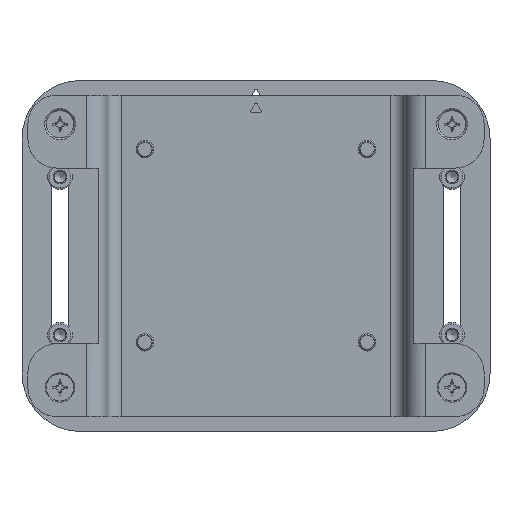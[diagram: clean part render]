
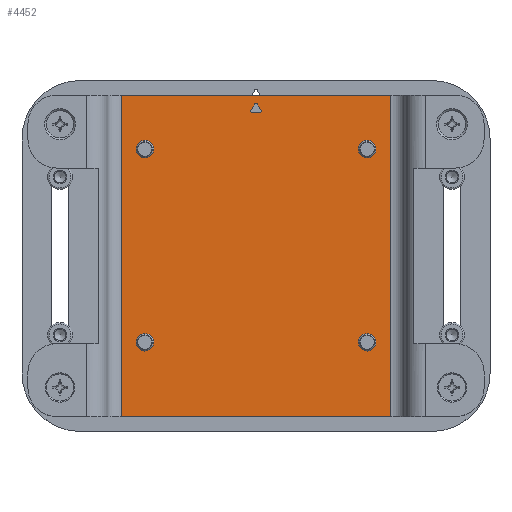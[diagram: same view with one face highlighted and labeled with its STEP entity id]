
A CAD part, top view. The second image highlights one B-rep face of the part: STEP entity #4452.
In plain terms, the highlighted planar face has unit normal (0, 0, 1).
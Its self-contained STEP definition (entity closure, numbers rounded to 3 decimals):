
#4452=ADVANCED_FACE('',(#7230,#7231,#7232,#7233,#7234,#7235),#5001,.F.);
#5001=PLANE('',#12989);
#5386=LINE('',#16338,#6308);
#5387=LINE('',#16341,#6309);
#5388=LINE('',#16343,#6310);
#5389=LINE('',#16345,#6311);
#5390=LINE('',#16353,#6312);
#5391=LINE('',#16357,#6313);
#5392=LINE('',#16361,#6314);
#6308=VECTOR('',#13797,1.);
#6309=VECTOR('',#13798,1.);
#6310=VECTOR('',#13799,1.);
#6311=VECTOR('',#13800,1.);
#6312=VECTOR('',#13807,1.);
#6313=VECTOR('',#13810,1.);
#6314=VECTOR('',#13813,1.);
#7230=FACE_BOUND('',#7537,.T.);
#7231=FACE_BOUND('',#7538,.T.);
#7232=FACE_BOUND('',#7539,.T.);
#7233=FACE_BOUND('',#7540,.T.);
#7234=FACE_BOUND('',#7541,.T.);
#7235=FACE_BOUND('',#7542,.T.);
#7537=EDGE_LOOP('',(#8249));
#7538=EDGE_LOOP('',(#8250));
#7539=EDGE_LOOP('',(#8251,#8252,#8253,#8254));
#7540=EDGE_LOOP('',(#8255));
#7541=EDGE_LOOP('',(#8256));
#7542=EDGE_LOOP('',(#8257,#8258,#8259,#8260,#8261,#8262));
#8249=ORIENTED_EDGE('',*,*,#11509,.T.);
#8250=ORIENTED_EDGE('',*,*,#11510,.F.);
#8251=ORIENTED_EDGE('',*,*,#11511,.F.);
#8252=ORIENTED_EDGE('',*,*,#11512,.F.);
#8253=ORIENTED_EDGE('',*,*,#11513,.T.);
#8254=ORIENTED_EDGE('',*,*,#11514,.T.);
#8255=ORIENTED_EDGE('',*,*,#11515,.F.);
#8256=ORIENTED_EDGE('',*,*,#11516,.T.);
#8257=ORIENTED_EDGE('',*,*,#11517,.F.);
#8258=ORIENTED_EDGE('',*,*,#11518,.F.);
#8259=ORIENTED_EDGE('',*,*,#11519,.F.);
#8260=ORIENTED_EDGE('',*,*,#11520,.F.);
#8261=ORIENTED_EDGE('',*,*,#11521,.F.);
#8262=ORIENTED_EDGE('',*,*,#11522,.F.);
#10673=VERTEX_POINT('',#16335);
#10674=VERTEX_POINT('',#16337);
#10675=VERTEX_POINT('',#16339);
#10676=VERTEX_POINT('',#16340);
#10677=VERTEX_POINT('',#16342);
#10678=VERTEX_POINT('',#16344);
#10679=VERTEX_POINT('',#16347);
#10680=VERTEX_POINT('',#16349);
#10681=VERTEX_POINT('',#16351);
#10682=VERTEX_POINT('',#16352);
#10683=VERTEX_POINT('',#16354);
#10684=VERTEX_POINT('',#16356);
#10685=VERTEX_POINT('',#16358);
#10686=VERTEX_POINT('',#16360);
#11509=EDGE_CURVE('',#10673,#10673,#12721,.T.);
#11510=EDGE_CURVE('',#10674,#10674,#12722,.T.);
#11511=EDGE_CURVE('',#10675,#10676,#5386,.T.);
#11512=EDGE_CURVE('',#10677,#10675,#5387,.T.);
#11513=EDGE_CURVE('',#10677,#10678,#5388,.T.);
#11514=EDGE_CURVE('',#10678,#10676,#5389,.T.);
#11515=EDGE_CURVE('',#10679,#10679,#12723,.T.);
#11516=EDGE_CURVE('',#10680,#10680,#12724,.T.);
#11517=EDGE_CURVE('',#10681,#10682,#12725,.T.);
#11518=EDGE_CURVE('',#10683,#10681,#5390,.T.);
#11519=EDGE_CURVE('',#10684,#10683,#12726,.T.);
#11520=EDGE_CURVE('',#10685,#10684,#5391,.T.);
#11521=EDGE_CURVE('',#10686,#10685,#12727,.T.);
#11522=EDGE_CURVE('',#10682,#10686,#5392,.T.);
#12721=CIRCLE('',#12982,3.);
#12722=CIRCLE('',#12983,3.);
#12723=CIRCLE('',#12984,3.);
#12724=CIRCLE('',#12985,3.);
#12725=CIRCLE('',#12986,0.5);
#12726=CIRCLE('',#12987,0.5);
#12727=CIRCLE('',#12988,0.5);
#12982=AXIS2_PLACEMENT_3D('',#16334,#13793,#13794);
#12983=AXIS2_PLACEMENT_3D('',#16336,#13795,#13796);
#12984=AXIS2_PLACEMENT_3D('',#16346,#13801,#13802);
#12985=AXIS2_PLACEMENT_3D('',#16348,#13803,#13804);
#12986=AXIS2_PLACEMENT_3D('',#16350,#13805,#13806);
#12987=AXIS2_PLACEMENT_3D('',#16355,#13808,#13809);
#12988=AXIS2_PLACEMENT_3D('',#16359,#13811,#13812);
#12989=AXIS2_PLACEMENT_3D('',#16362,#13814,#13815);
#13793=DIRECTION('',(0.,0.,-1.));
#13794=DIRECTION('',(-1.,0.,0.));
#13795=DIRECTION('',(0.,0.,1.));
#13796=DIRECTION('',(-1.,0.,0.));
#13797=DIRECTION('',(1.,0.,0.));
#13798=DIRECTION('',(0.,1.,0.));
#13799=DIRECTION('',(1.,0.,0.));
#13800=DIRECTION('',(0.,1.,0.));
#13801=DIRECTION('',(0.,0.,1.));
#13802=DIRECTION('',(-1.,0.,0.));
#13803=DIRECTION('',(0.,0.,-1.));
#13804=DIRECTION('',(-1.,0.,0.));
#13805=DIRECTION('',(0.,0.,1.));
#13806=DIRECTION('',(-1.,0.,0.));
#13807=DIRECTION('',(-0.5,0.866,0.));
#13808=DIRECTION('',(0.,0.,1.));
#13809=DIRECTION('',(-1.,0.,0.));
#13810=DIRECTION('',(1.,0.,0.));
#13811=DIRECTION('',(0.,0.,1.));
#13812=DIRECTION('',(-1.,0.,0.));
#13813=DIRECTION('',(-0.5,-0.866,0.));
#13814=DIRECTION('',(0.,0.,-1.));
#13815=DIRECTION('',(-1.,0.,0.));
#16334=CARTESIAN_POINT('',(-38.,-33.2,-29.5));
#16335=CARTESIAN_POINT('',(-41.,-33.2,-29.5));
#16336=CARTESIAN_POINT('',(-38.,32.8,-29.5));
#16337=CARTESIAN_POINT('',(-41.,32.8,-29.5));
#16338=CARTESIAN_POINT('',(0.,51.3,-29.5));
#16339=CARTESIAN_POINT('',(-46.,51.3,-29.5));
#16340=CARTESIAN_POINT('',(46.,51.3,-29.5));
#16341=CARTESIAN_POINT('',(-46.,46.3,-29.5));
#16342=CARTESIAN_POINT('',(-46.,-58.7,-29.5));
#16343=CARTESIAN_POINT('',(0.,-58.7,-29.5));
#16344=CARTESIAN_POINT('',(46.,-58.7,-29.5));
#16345=CARTESIAN_POINT('',(46.,-6.2,-29.5));
#16346=CARTESIAN_POINT('',(38.,-33.2,-29.5));
#16347=CARTESIAN_POINT('',(35.,-33.2,-29.5));
#16348=CARTESIAN_POINT('',(38.,32.8,-29.5));
#16349=CARTESIAN_POINT('',(35.,32.8,-29.5));
#16350=CARTESIAN_POINT('',(0.,48.05,-29.5));
#16351=CARTESIAN_POINT('',(0.433,48.3,-29.5));
#16352=CARTESIAN_POINT('',(-0.433,48.3,-29.5));
#16353=CARTESIAN_POINT('',(23.924,7.613,-29.5));
#16354=CARTESIAN_POINT('',(1.732,46.05,-29.5));
#16355=CARTESIAN_POINT('',(1.299,45.8,-29.5));
#16356=CARTESIAN_POINT('',(1.299,45.3,-29.5));
#16357=CARTESIAN_POINT('',(0.,45.3,-29.5));
#16358=CARTESIAN_POINT('',(-1.299,45.3,-29.5));
#16359=CARTESIAN_POINT('',(-1.299,45.8,-29.5));
#16360=CARTESIAN_POINT('',(-1.732,46.05,-29.5));
#16361=CARTESIAN_POINT('',(-23.924,7.613,-29.5));
#16362=CARTESIAN_POINT('',(0.,-6.2,-29.5));
